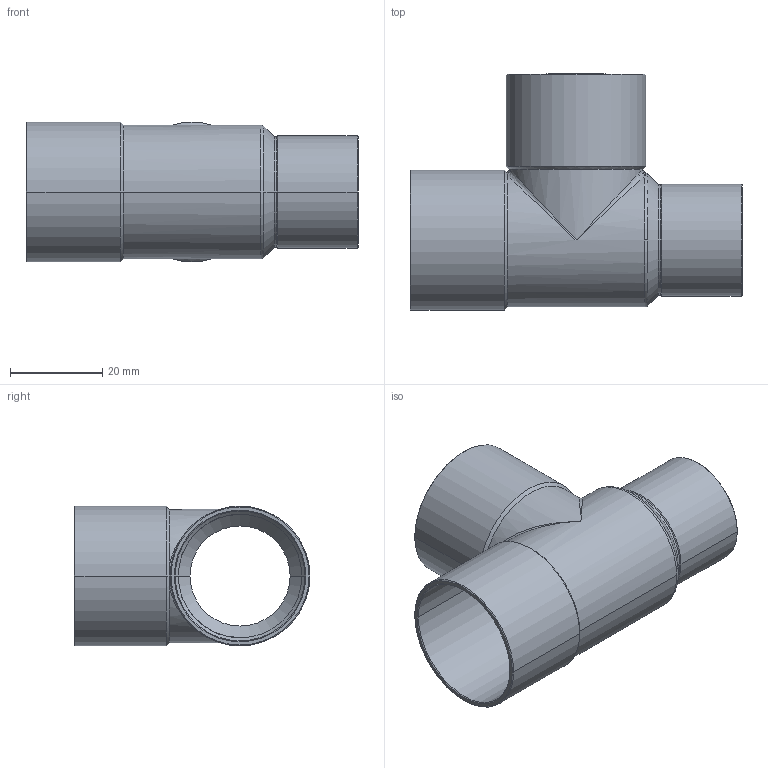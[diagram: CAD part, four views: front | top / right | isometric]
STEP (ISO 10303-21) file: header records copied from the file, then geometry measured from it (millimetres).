
FILE_DESCRIPTION((''),'2;1');
FILE_NAME('G:\Technics\CAD\Bauteile\15130\15130282822.stp','2005-11-03T13:42:47',('boden'),(''),'Autodesk Inventor 8','Autodesk Inventor 8','');
FILE_SCHEMA(('AUTOMOTIVE_DESIGN { 1 0 10303 214 1 1 1 1 }'));
Length unit declared in the file: millimetre
Products named in the file (1): 15130282822
Bounding box: 72 x 51.16 x 30.32 mm (x, y, z)
Volume: 8681.9 mm3; surface area: 16041.9 mm2
Topology: 1 solids, 1 shells, 62 faces, 145 edges, 78 vertices
Faces by surface type: cone 28, cylinder 24, bspline 4, torus 3, plane 3
Entity records: 2163 total; most frequent: CARTESIAN_POINT 743, DIRECTION 320, ORIENTED_EDGE 278, EDGE_CURVE 139, AXIS2_PLACEMENT_3D 135, VERTEX_POINT 78, CIRCLE 66, EDGE_LOOP 65
